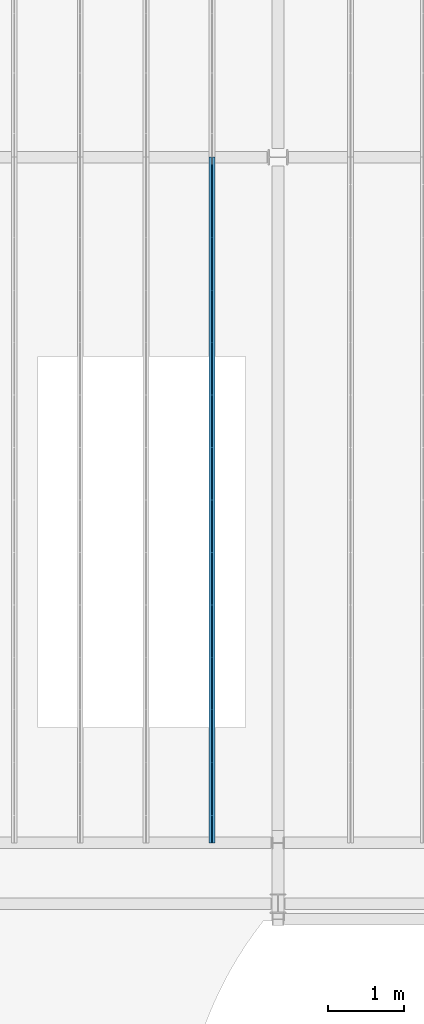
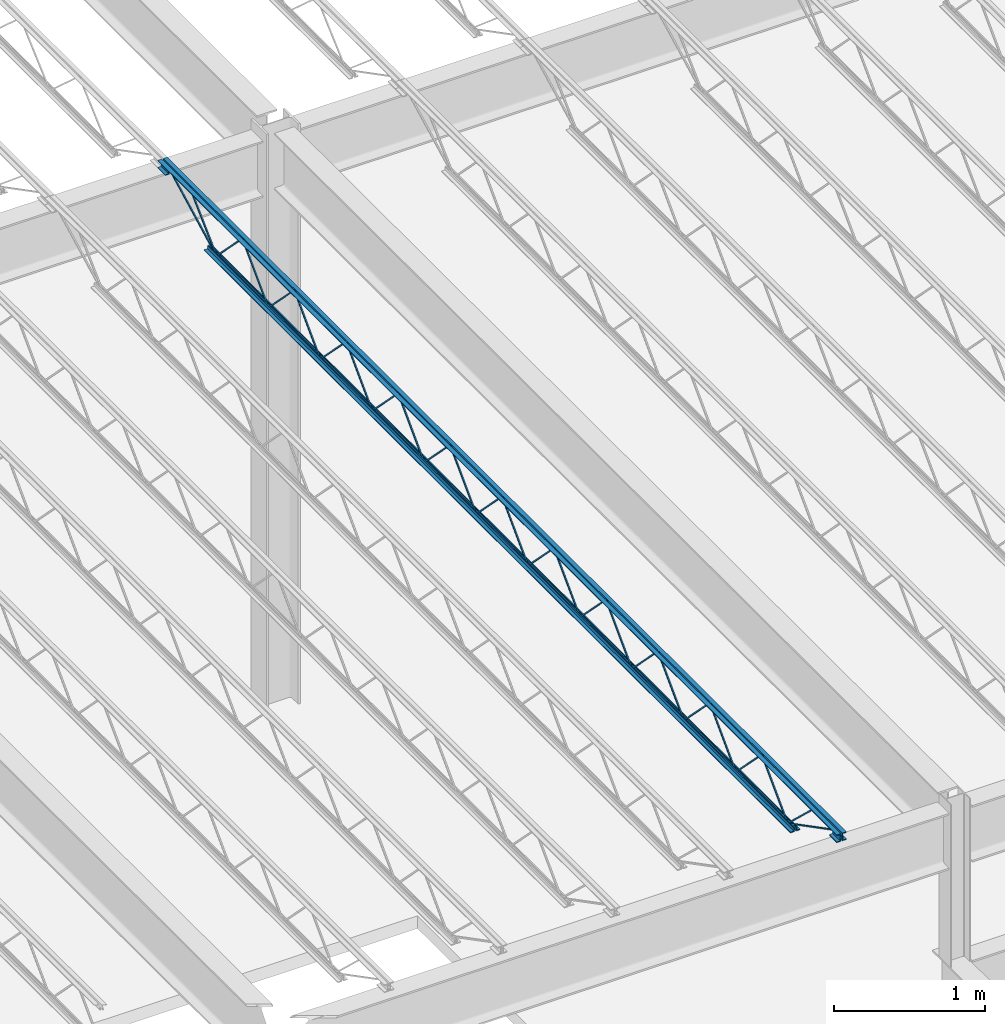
# One storey, part 56 of 119: 1 beam.
"""IFC2X3 building model written with IfcOpenShell, lengths in metres."""

from ifc_helpers import new_model, entity, si_unit, converted_unit, frame, origin, place, context, project, spatial, face_set, surface_model, element, save


model = new_model("IFC2X3")

# Units and contexts
model_context = context("Model", 3, precision=1e-09, world=origin())
plan_context = context("Plan", 3, precision=1e-09, world=origin())
ifc_project = project(units=[si_unit("LENGTHUNIT", "METRE"), si_unit("AREAUNIT", "SQUARE_METRE"), si_unit("VOLUMEUNIT", "CUBIC_METRE"), converted_unit("PLANEANGLEUNIT", "DEGREE", entity("IfcRatioMeasure", 0.01745329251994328), si_unit("PLANEANGLEUNIT", "RADIAN"), dimensions=[0, 0, 0, 0, 0, 0, 0]), si_unit("TIMEUNIT", "SECOND")], contexts=[model_context, plan_context])

# Site, building, storey
site_placement = place(None, origin())
site = spatial("IfcSite", under=ifc_project, at=site_placement, Name="Default", CompositionType="ELEMENT")
building_placement = place(site_placement, origin())
building = spatial("IfcBuilding", under=site, at=building_placement, CompositionType="ELEMENT")
storey_placement = place(building_placement, frame((0.0, 0.0, 4.570000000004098)))
storey = spatial("IfcBuildingStorey", under=building, at=storey_placement, Name="Second Floor", CompositionType="ELEMENT", Elevation=4.570000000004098)

# Beam
beam_placement = place(storey_placement, frame((-15.78006249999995, 35.80499999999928, 4.323999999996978)))
element("IfcBeam", 1, at=beam_placement, inside=storey, Name="M_K-Series Bar Joist-Rod Web:14K1:14K1", ObjectType="M_K-Series Bar Joist-Rod Web:14K1", context=model_context, shape_type="SurfaceModel", body=[
    surface_model("IfcFaceBasedSurfaceModel", [(0.04150000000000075, 6.89009090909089, 0.01110000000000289), (0.03200000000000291, 6.89009090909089, 0.01110000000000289), (0.03200000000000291, 6.89009090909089, 0.001600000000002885), (0.04150000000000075, 6.89009090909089, 0.001600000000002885), (0.03200000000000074, 6.891272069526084, 0.01110000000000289), (0.04150000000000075, 6.891272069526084, 0.01110000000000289), (0.03200000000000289, 6.895259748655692, 0.001600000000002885), (0.03200000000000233, 7.232137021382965, 0.3449000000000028), (0.03200000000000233, 7.23449934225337, 0.3449000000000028), (0.03200000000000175, 7.571376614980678, 0.001600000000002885), (0.03200000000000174, 7.576545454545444, 0.001600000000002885), (0.03200000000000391, 7.576545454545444, 0.01110000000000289), (0.03200000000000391, 7.575364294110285, 0.01110000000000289), (0.03200000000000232, 7.238487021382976, 0.3544000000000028), (0.03200000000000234, 7.228149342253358, 0.3544000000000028), (0.0415000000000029, 6.895259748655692, 0.001600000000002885), (0.04150000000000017, 7.232137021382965, 0.3449000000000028), (0.04150000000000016, 7.23449934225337, 0.3449000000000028), (0.04149999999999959, 7.571376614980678, 0.001600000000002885), (0.04149999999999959, 7.576545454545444, 0.001600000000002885), (0.04149999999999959, 7.576545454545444, 0.01110000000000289), (0.04149999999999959, 7.575364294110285, 0.01110000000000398), (0.04150000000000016, 7.238487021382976, 0.3544000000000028), (0.04150000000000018, 7.228149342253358, 0.3544000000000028), (0.04149999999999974, 6.203636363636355, 0.01110000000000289), (0.0320000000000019, 6.203636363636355, 0.01110000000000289), (0.0320000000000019, 6.203636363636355, 0.001600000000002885), (0.04149999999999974, 6.203636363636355, 0.001600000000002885), (0.03199999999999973, 6.204817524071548, 0.01110000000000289), (0.04149999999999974, 6.204817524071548, 0.01110000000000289), (0.0320000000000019, 6.208805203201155, 0.001600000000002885), (0.03200000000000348, 6.545682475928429, 0.3449000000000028), (0.03200000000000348, 6.548044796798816, 0.3449000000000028), (0.03200000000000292, 6.884922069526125, 0.001600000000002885), (0.03200000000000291, 6.888909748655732, 0.01110000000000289), (0.03200000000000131, 6.552032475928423, 0.3544000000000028), (0.03200000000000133, 6.541694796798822, 0.3544000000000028), (0.0415000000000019, 6.208805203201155, 0.001600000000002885), (0.04149999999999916, 6.545682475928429, 0.3449000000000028), (0.04149999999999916, 6.548044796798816, 0.3449000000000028), (0.04149999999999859, 6.884922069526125, 0.001600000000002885), (0.04149999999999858, 6.89009090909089, 0.001600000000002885), (0.04150000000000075, 6.888909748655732, 0.01110000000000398), (0.04150000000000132, 6.552032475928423, 0.3544000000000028), (0.04150000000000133, 6.541694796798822, 0.3544000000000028), (0.0415000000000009, 5.517181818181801, 0.01110000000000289), (0.03200000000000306, 5.517181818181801, 0.01110000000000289), (0.03200000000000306, 5.517181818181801, 0.001600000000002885), (0.0415000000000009, 5.517181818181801, 0.001600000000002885), (0.03200000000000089, 5.518362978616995, 0.01110000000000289), (0.0415000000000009, 5.518362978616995, 0.01110000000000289), (0.03200000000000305, 5.522350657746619, 0.001600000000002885), (0.03200000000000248, 5.859227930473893, 0.3449000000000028), (0.03200000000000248, 5.861590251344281, 0.3449000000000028), (0.03200000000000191, 6.198467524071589, 0.001600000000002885), (0.03200000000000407, 6.203636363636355, 0.01110000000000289), (0.03200000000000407, 6.202455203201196, 0.01110000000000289), (0.03200000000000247, 5.865577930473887, 0.3544000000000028), (0.03200000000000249, 5.855240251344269, 0.3544000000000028), (0.04150000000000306, 5.522350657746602, 0.001600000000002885), (0.04150000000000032, 5.859227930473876, 0.3449000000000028), (0.04150000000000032, 5.861590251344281, 0.3449000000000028), (0.04149999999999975, 6.198467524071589, 0.001600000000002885), (0.04149999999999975, 6.202455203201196, 0.01110000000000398), (0.04150000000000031, 5.865577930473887, 0.3544000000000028), (0.04150000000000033, 5.855240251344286, 0.3544000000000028), (0.04149999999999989, 4.830727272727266, 0.01110000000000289), (0.03200000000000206, 4.830727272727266, 0.01110000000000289), (0.03200000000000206, 4.830727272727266, 0.001600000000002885), (0.04149999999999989, 4.830727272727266, 0.001600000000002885), (0.03199999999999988, 4.831908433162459, 0.01110000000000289), (0.04149999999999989, 4.831908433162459, 0.01110000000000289), (0.03200000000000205, 4.835896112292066, 0.001600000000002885), (0.03200000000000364, 5.17277338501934, 0.3449000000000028), (0.03200000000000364, 5.175135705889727, 0.3449000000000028), (0.03200000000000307, 5.512012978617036, 0.001600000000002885), (0.03200000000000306, 5.517181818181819, 0.001600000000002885), (0.03200000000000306, 5.517181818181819, 0.01110000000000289), (0.03200000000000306, 5.51600065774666, 0.01110000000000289), (0.03200000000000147, 5.179123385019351, 0.3544000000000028), (0.03200000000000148, 5.168785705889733, 0.3544000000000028), (0.04150000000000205, 4.835896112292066, 0.001600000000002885), (0.04149999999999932, 5.17277338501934, 0.3449000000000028), (0.04149999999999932, 5.175135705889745, 0.3449000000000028), (0.04149999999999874, 5.512012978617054, 0.001600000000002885), (0.04149999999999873, 5.517181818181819, 0.001600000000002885), (0.0415000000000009, 5.517181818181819, 0.01110000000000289), (0.0415000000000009, 5.51600065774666, 0.01110000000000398), (0.04150000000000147, 5.179123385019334, 0.3544000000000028), (0.04150000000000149, 5.168785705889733, 0.3544000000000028), (0.04150000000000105, 4.14427272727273, 0.01110000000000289), (0.03200000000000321, 4.14427272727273, 0.01110000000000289), (0.03200000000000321, 4.14427272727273, 0.001600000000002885), (0.04150000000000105, 4.14427272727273, 0.001600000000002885), (0.03200000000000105, 4.145453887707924, 0.01110000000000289), (0.04150000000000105, 4.145453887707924, 0.01110000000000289), (0.03200000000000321, 4.14944156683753, 0.001600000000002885), (0.03200000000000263, 4.486318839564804, 0.3449000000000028), (0.03200000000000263, 4.488681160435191, 0.3449000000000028), (0.03200000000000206, 4.8255584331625, 0.001600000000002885), (0.03200000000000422, 4.830727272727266, 0.01110000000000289), (0.03200000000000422, 4.829546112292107, 0.01110000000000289), (0.03200000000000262, 4.492668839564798, 0.3544000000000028), (0.03200000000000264, 4.482331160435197, 0.3544000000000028), (0.04150000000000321, 4.14944156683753, 0.001600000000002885), (0.04150000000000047, 4.486318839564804, 0.3449000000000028), (0.04150000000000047, 4.488681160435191, 0.3449000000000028), (0.0414999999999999, 4.8255584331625, 0.001600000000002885), (0.0414999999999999, 4.829546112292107, 0.01110000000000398), (0.04150000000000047, 4.492668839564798, 0.3544000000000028), (0.04150000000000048, 4.482331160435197, 0.3544000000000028), (0.04150000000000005, 3.457818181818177, 0.01110000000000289), (0.03200000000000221, 3.457818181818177, 0.01110000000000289), (0.03200000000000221, 3.457818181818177, 0.001600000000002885), (0.04150000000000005, 3.457818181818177, 0.001600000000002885), (0.03200000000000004, 3.458999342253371, 0.01110000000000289), (0.04150000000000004, 3.458999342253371, 0.01110000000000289), (0.03200000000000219, 3.462987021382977, 0.001600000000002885), (0.03200000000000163, 3.799864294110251, 0.3449000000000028), (0.03200000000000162, 3.802226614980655, 0.3449000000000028), (0.03200000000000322, 4.139103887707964, 0.001600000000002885), (0.03200000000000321, 4.143091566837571, 0.01110000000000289), (0.03200000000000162, 3.806214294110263, 0.3544000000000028), (0.03200000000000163, 3.795876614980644, 0.3544000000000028), (0.04150000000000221, 3.462987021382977, 0.001600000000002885), (0.04149999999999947, 3.799864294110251, 0.3449000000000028), (0.04149999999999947, 3.802226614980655, 0.3449000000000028), (0.0414999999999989, 4.139103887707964, 0.001600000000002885), (0.04149999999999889, 4.14427272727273, 0.001600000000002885), (0.04150000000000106, 4.143091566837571, 0.01110000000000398), (0.04149999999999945, 3.806214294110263, 0.3544000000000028), (0.04149999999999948, 3.795876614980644, 0.3544000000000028), (0.04150000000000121, 2.771363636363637, 0.01110000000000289), (0.03200000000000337, 2.771363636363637, 0.01110000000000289), (0.03200000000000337, 2.771363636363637, 0.001600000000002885), (0.04150000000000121, 2.771363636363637, 0.001600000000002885), (0.0320000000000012, 2.772544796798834, 0.01110000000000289), (0.0415000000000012, 2.772544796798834, 0.01110000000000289), (0.03200000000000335, 2.776532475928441, 0.001600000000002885), (0.03200000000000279, 3.113409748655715, 0.3449000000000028), (0.03200000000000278, 3.115772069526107, 0.3449000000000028), (0.03200000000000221, 3.452649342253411, 0.001600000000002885), (0.03200000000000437, 3.457818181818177, 0.01110000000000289), (0.03200000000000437, 3.456637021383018, 0.01110000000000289), (0.03200000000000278, 3.119759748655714, 0.3544000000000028), (0.03200000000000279, 3.109422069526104, 0.3544000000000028), (0.04150000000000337, 2.776532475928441, 0.001600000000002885), (0.04150000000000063, 3.113409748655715, 0.3449000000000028), (0.04150000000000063, 3.115772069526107, 0.3449000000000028), (0.04150000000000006, 3.452649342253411, 0.001600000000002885), (0.04150000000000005, 3.456637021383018, 0.01110000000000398), (0.04150000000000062, 3.119759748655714, 0.3544000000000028), (0.04150000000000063, 3.109422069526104, 0.3544000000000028), (0.0415000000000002, 2.084909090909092, 0.01110000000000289), (0.03200000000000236, 2.084909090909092, 0.01110000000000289), (0.03200000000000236, 2.084909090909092, 0.001600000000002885), (0.0415000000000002, 2.084909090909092, 0.001600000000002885), (0.0320000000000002, 2.08609025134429, 0.01110000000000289), (0.0415000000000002, 2.08609025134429, 0.01110000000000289), (0.03200000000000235, 2.090077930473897, 0.001600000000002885), (0.03200000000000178, 2.426955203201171, 0.3449000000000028), (0.03200000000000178, 2.429317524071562, 0.3449000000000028), (0.03200000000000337, 2.766194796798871, 0.001600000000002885), (0.03200000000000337, 2.770182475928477, 0.01110000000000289), (0.03200000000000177, 2.433305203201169, 0.3544000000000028), (0.03200000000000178, 2.422967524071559, 0.3544000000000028), (0.04150000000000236, 2.090077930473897, 0.001600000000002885), (0.04149999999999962, 2.426955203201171, 0.3449000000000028), (0.04149999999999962, 2.429317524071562, 0.3449000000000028), (0.04149999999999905, 2.766194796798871, 0.001600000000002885), (0.04149999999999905, 2.771363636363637, 0.001600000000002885), (0.04150000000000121, 2.770182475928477, 0.01110000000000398), (0.04149999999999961, 2.433305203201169, 0.3544000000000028), (0.04149999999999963, 2.422967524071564, 0.3544000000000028), (0.04150000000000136, 1.398454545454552, 0.01110000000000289), (0.03200000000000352, 1.398454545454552, 0.01110000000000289), (0.03200000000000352, 1.398454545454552, 0.001600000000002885), (0.04150000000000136, 1.398454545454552, 0.001600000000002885), (0.03200000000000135, 1.39963570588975, 0.01110000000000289), (0.04150000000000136, 1.39963570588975, 0.01110000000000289), (0.03200000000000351, 1.403623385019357, 0.001600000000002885), (0.03200000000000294, 1.740500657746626, 0.3449000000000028), (0.03200000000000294, 1.742862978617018, 0.3449000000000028), (0.03200000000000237, 2.07974025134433, 0.001600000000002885), (0.03200000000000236, 2.084909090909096, 0.001600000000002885), (0.03200000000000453, 2.084909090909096, 0.01110000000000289), (0.03200000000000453, 2.083727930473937, 0.01110000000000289), (0.03200000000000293, 1.746850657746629, 0.3544000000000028), (0.03200000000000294, 1.736512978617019, 0.3544000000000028), (0.04150000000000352, 1.403623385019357, 0.001600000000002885), (0.04150000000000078, 1.74050065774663, 0.3449000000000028), (0.04150000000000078, 1.742862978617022, 0.3449000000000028), (0.04150000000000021, 2.07974025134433, 0.001600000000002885), (0.0415000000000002, 2.084909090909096, 0.001600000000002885), (0.0415000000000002, 2.084909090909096, 0.01110000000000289), (0.0415000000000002, 2.083727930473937, 0.01110000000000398), (0.04150000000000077, 1.746850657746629, 0.3544000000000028), (0.04150000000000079, 1.736512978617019, 0.3544000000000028), (0.04150000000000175, 7.576545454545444, 0.01109999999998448), (0.03200000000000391, 7.576545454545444, 0.01109999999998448), (0.03200000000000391, 7.576545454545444, 0.001599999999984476), (0.04150000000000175, 7.576545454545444, 0.001599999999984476), (0.03200000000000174, 7.577726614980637, 0.01109999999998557), (0.04150000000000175, 7.577726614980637, 0.01109999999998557), (0.03200000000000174, 7.581714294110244, 0.001599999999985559), (0.03200000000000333, 7.918591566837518, 0.3448999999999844), (0.03200000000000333, 7.920953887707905, 0.3448999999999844), (0.03200000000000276, 8.257831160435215, 0.001599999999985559), (0.03200000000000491, 8.26299999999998, 0.001599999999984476), (0.03200000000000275, 8.26299999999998, 0.01109999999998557), (0.03200000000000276, 8.261818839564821, 0.01109999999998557), (0.03200000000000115, 7.924941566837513, 0.3543999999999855), (0.03200000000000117, 7.914603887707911, 0.3543999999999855), (0.04150000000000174, 7.581714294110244, 0.001599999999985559), (0.04150000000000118, 7.918591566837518, 0.3448999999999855), (0.04150000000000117, 7.920953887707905, 0.3448999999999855), (0.0415000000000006, 8.257831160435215, 0.001599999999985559), (0.04150000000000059, 8.26299999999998, 0.001599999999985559), (0.04150000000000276, 8.26299999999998, 0.01109999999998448), (0.04150000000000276, 8.261818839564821, 0.01109999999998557), (0.04150000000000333, 7.924941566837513, 0.3543999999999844), (0.04150000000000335, 7.914603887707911, 0.3543999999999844), (0.04150000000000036, 0.7120000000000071, 0.01110000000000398), (0.03200000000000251, 0.7120000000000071, 0.01110000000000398), (0.03200000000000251, 0.7120000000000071, 0.001600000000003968), (0.04150000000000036, 0.7120000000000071, 0.001600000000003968), (0.03200000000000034, 0.7131811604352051, 0.01110000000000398), (0.04150000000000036, 0.7131811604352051, 0.01110000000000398), (0.03200000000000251, 0.7171688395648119, 0.001600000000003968), (0.03200000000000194, 1.054046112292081, 0.3449000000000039), (0.03200000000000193, 1.056408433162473, 0.3449000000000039), (0.03200000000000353, 1.393285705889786, 0.001600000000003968), (0.03200000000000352, 1.398454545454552, 0.001600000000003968), (0.03200000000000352, 1.398454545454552, 0.01110000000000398), (0.03200000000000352, 1.397273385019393, 0.01110000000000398), (0.03200000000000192, 1.060396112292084, 0.3544000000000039), (0.03200000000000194, 1.050058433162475, 0.3544000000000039), (0.04150000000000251, 0.7171688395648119, 0.001600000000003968), (0.04149999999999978, 1.054046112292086, 0.3449000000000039), (0.04149999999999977, 1.056408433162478, 0.3449000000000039), (0.0414999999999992, 1.393285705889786, 0.001600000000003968), (0.0414999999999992, 1.398454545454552, 0.001600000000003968), (0.04150000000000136, 1.398454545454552, 0.01110000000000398), (0.04150000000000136, 1.397273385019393, 0.01110000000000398), (0.04149999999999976, 1.060396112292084, 0.3544000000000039), (0.04149999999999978, 1.050058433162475, 0.3544000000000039), (0.03199999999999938, 8.975000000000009, 0.3559999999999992), (0.0, 8.975000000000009, 0.3559999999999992), (0.0, 8.975000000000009, 0.3494999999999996), (0.02549999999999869, 8.975000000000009, 0.3494999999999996), (0.02549999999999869, 8.975000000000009, 0.3239999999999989), (0.03199999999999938, 8.975000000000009, 0.3239999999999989), (0.04149999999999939, 8.975000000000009, 0.3559999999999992), (0.04149999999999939, 8.975000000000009, 0.3239999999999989), (0.04800000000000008, 8.975000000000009, 0.3239999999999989), (0.04800000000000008, 8.975000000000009, 0.3494999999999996), (0.07349999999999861, 8.975000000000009, 0.3494999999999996), (0.07349999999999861, 8.975000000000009, 0.3559999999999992), (0.03200000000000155, 0.0, 0.3559999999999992), (0.0, 0.0, 0.3559999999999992), (0.0, 0.0, 0.3494999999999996), (0.02550000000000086, 0.0, 0.3494999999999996), (0.02550000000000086, 0.0, 0.3239999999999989), (0.03200000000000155, 0.0, 0.3239999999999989), (0.04150000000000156, 0.0, 0.3559999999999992), (0.04150000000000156, 0.0, 0.3239999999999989), (0.04800000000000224, 0.0, 0.3239999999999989), (0.04800000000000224, 0.0, 0.3494999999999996), (0.07350000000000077, 0.0, 0.3494999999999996), (0.07350000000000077, 0.0, 0.3559999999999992), (0.04150000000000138, 0.09999999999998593, 0.2924999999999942), (0.0735000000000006, 0.09999999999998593, 0.2924999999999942), (0.0735000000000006, 0.09999999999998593, 0.2989999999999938), (0.04800000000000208, 0.09999999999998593, 0.2989999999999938), (0.04800000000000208, 0.09999999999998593, 0.3239999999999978), (0.04150000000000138, 0.09999999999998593, 0.3239999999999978), (0.0, 0.09999999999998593, 0.2924999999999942), (0.03200000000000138, 0.09999999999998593, 0.2924999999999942), (0.03200000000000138, 0.09999999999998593, 0.3239999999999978), (0.02550000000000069, 0.09999999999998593, 0.3239999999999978), (0.02550000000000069, 0.09999999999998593, 0.2989999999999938), (0.0, 0.09999999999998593, 0.2989999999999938), (0.04150000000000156, 0.0, 0.2924999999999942), (0.07350000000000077, 0.0, 0.2924999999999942), (0.07350000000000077, 0.0, 0.2989999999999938), (0.04800000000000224, 0.0, 0.2989999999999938), (0.04800000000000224, 0.0, 0.3239999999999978), (0.04150000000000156, 0.0, 0.3239999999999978), (0.0, 0.0, 0.2924999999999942), (0.03200000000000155, 0.0, 0.2924999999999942), (0.03200000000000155, 0.0, 0.3239999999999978), (0.02550000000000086, 0.0, 0.3239999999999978), (0.02550000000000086, 0.0, 0.2989999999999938), (0.0, 0.0, 0.2989999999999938), (0.03199999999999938, 8.975000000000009, 0.2924999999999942), (0.03199999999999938, 8.975000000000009, 0.3239999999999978), (0.02550000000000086, 8.975000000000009, 0.3239999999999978), (0.02550000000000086, 8.975000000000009, 0.2989999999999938), (0.0, 8.975000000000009, 0.2989999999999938), (0.0, 8.975000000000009, 0.2924999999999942), (0.04149999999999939, 8.975000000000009, 0.2924999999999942), (0.07350000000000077, 8.975000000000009, 0.2924999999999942), (0.07350000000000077, 8.975000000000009, 0.2989999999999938), (0.04800000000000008, 8.975000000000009, 0.2989999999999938), (0.04800000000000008, 8.975000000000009, 0.3239999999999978), (0.04149999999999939, 8.975000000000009, 0.3239999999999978), (0.03199999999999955, 8.874999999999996, 0.2924999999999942), (0.03199999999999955, 8.874999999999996, 0.3239999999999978), (0.02550000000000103, 8.874999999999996, 0.3239999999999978), (0.02550000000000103, 8.874999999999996, 0.2989999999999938), (0.0, 8.874999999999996, 0.2989999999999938), (0.0, 8.874999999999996, 0.2924999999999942), (0.04149999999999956, 8.874999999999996, 0.2924999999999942), (0.07350000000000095, 8.874999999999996, 0.2924999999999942), (0.07350000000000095, 8.874999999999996, 0.2989999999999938), (0.04800000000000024, 8.874999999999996, 0.2989999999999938), (0.04800000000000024, 8.874999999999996, 0.3239999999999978), (0.04149999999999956, 8.874999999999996, 0.3239999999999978), (0.03200000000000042, 8.363000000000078, 0.0), (0.03200000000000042, 8.363000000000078, 0.03199999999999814), (0.02549999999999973, 8.363000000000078, 0.03199999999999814), (0.02549999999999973, 8.363000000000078, 0.006499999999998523), (0.0, 8.363000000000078, 0.006499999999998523), (0.0, 8.363000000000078, 0.0), (0.04150000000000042, 8.363000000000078, 0.0), (0.07349999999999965, 8.363000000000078, 0.0), (0.07349999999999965, 8.363000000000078, 0.006499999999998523), (0.04800000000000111, 8.363000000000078, 0.006499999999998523), (0.04800000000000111, 8.363000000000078, 0.03199999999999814), (0.04150000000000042, 8.363000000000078, 0.03199999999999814), (0.03200000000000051, 0.6120000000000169, 0.0), (0.03200000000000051, 0.6120000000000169, 0.03199999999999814), (0.02549999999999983, 0.6120000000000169, 0.03199999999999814), (0.02549999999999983, 0.6120000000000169, 0.006499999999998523), (0.0, 0.6120000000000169, 0.006499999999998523), (0.0, 0.6120000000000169, 0.0), (0.04150000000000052, 0.6120000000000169, 0.0), (0.07349999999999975, 0.6120000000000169, 0.0), (0.07349999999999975, 0.6120000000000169, 0.006499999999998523), (0.04800000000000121, 0.6120000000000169, 0.006499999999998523), (0.04800000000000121, 0.6120000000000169, 0.03199999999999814), (0.04150000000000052, 0.6120000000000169, 0.03199999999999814), (0.04150000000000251, 0.7141882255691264, 0.01056594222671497), (0.03200000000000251, 0.7141882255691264, 0.01056594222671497), (0.03200000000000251, 0.7098117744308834, 0.002134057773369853), (0.04150000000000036, 0.7098117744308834, 0.002134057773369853), (0.04150000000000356, 0.1011592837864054, 0.3287499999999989), (0.04150000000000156, 0.0, 0.3287499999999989), (0.04150000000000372, 0.0, 0.3192499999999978), (0.04150000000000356, 0.09884071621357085, 0.3192499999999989), (0.03200000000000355, 0.09884071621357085, 0.3192499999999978), (0.03200000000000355, 0.1011592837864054, 0.3287499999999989), (0.03200000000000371, 0.0, 0.3287499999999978), (0.03200000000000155, 0.0, 0.3192499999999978), (0.04150000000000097, 0.3488155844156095, 0.3417000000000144), (0.03200000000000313, 0.3488155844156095, 0.3417000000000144), (0.03200000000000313, 0.3488155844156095, 0.3322000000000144), (0.04150000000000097, 0.3488155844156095, 0.3322000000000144), (0.03200000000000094, 0.3634023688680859, 0.3417000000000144), (0.04150000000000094, 0.3634023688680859, 0.3417000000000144), (0.03200000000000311, 0.3596287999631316, 0.3322000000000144), (0.03200000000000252, 0.7087406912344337, 0.002894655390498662), (0.03200000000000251, 0.7152593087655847, 0.009805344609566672), (0.04150000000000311, 0.3596287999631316, 0.3322000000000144), (0.04150000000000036, 0.7087406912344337, 0.002894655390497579), (0.04150000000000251, 0.7152593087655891, 0.009805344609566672), (0.04149999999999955, 8.877188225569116, 0.3197840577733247), (0.04149999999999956, 8.872811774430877, 0.3282159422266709), (0.03200000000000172, 8.872811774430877, 0.3282159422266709), (0.03200000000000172, 8.877188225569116, 0.3197840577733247), (0.04150000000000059, 8.265188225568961, 0.002134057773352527), (0.0415000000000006, 8.260811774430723, 0.01056594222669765), (0.03200000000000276, 8.260811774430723, 0.01056594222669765), (0.03200000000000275, 8.265188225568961, 0.002134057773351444), (0.04150000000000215, 8.624030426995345, 0.346222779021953), (0.04149999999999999, 8.617452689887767, 0.3530772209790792), (0.03199999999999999, 8.617452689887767, 0.3530772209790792), (0.03200000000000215, 8.624030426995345, 0.346222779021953), (0.04150000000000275, 8.266288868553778, 0.002922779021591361), (0.0415000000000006, 8.259711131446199, 0.009777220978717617), (0.03200000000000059, 8.259711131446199, 0.009777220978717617), (0.03200000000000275, 8.266288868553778, 0.002922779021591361)], [face_set([[[0, 1, 2, 3]], [[1, 4, 5, 0]], [[2, 6, 7, 8, 9, 10, 11, 12, 13, 14, 4, 1]], [[3, 2, 6, 15]], [[0, 3, 15, 16, 17, 18, 19, 20, 21, 22, 23, 5]], [[4, 5, 23, 14]], [[15, 16, 7, 6]], [[14, 13, 22, 23]], [[16, 7, 8, 17]], [[13, 12, 21, 22]], [[17, 8, 9, 18]], [[20, 11, 10, 19]], [[12, 11, 20, 21]], [[18, 9, 10, 19]]]), face_set([[[24, 25, 26, 27]], [[25, 28, 29, 24]], [[26, 30, 31, 32, 33, 2, 1, 34, 35, 36, 28, 25]], [[27, 26, 30, 37]], [[24, 27, 37, 38, 39, 40, 41, 0, 42, 43, 44, 29]], [[28, 29, 44, 36]], [[37, 38, 31, 30]], [[36, 35, 43, 44]], [[38, 31, 32, 39]], [[35, 34, 42, 43]], [[39, 32, 33, 40]], [[0, 1, 2, 41]], [[34, 1, 0, 42]], [[40, 33, 2, 41]]]), face_set([[[45, 46, 47, 48]], [[46, 49, 50, 45]], [[47, 51, 52, 53, 54, 26, 55, 56, 57, 58, 49, 46]], [[48, 47, 51, 59]], [[45, 48, 59, 60, 61, 62, 27, 24, 63, 64, 65, 50]], [[49, 50, 65, 58]], [[59, 60, 52, 51]], [[58, 57, 64, 65]], [[60, 52, 53, 61]], [[57, 56, 63, 64]], [[61, 53, 54, 62]], [[24, 55, 26, 27]], [[56, 55, 24, 63]], [[62, 54, 26, 27]]]), face_set([[[66, 67, 68, 69]], [[67, 70, 71, 66]], [[68, 72, 73, 74, 75, 76, 77, 78, 79, 80, 70, 67]], [[69, 68, 72, 81]], [[66, 69, 81, 82, 83, 84, 85, 86, 87, 88, 89, 71]], [[70, 71, 89, 80]], [[81, 82, 73, 72]], [[80, 79, 88, 89]], [[82, 73, 74, 83]], [[79, 78, 87, 88]], [[83, 74, 75, 84]], [[86, 77, 76, 85]], [[78, 77, 86, 87]], [[84, 75, 76, 85]]]), face_set([[[90, 91, 92, 93]], [[91, 94, 95, 90]], [[92, 96, 97, 98, 99, 68, 100, 101, 102, 103, 94, 91]], [[93, 92, 96, 104]], [[90, 93, 104, 105, 106, 107, 69, 66, 108, 109, 110, 95]], [[94, 95, 110, 103]], [[104, 105, 97, 96]], [[103, 102, 109, 110]], [[105, 97, 98, 106]], [[102, 101, 108, 109]], [[106, 98, 99, 107]], [[66, 100, 68, 69]], [[101, 100, 66, 108]], [[107, 99, 68, 69]]]), face_set([[[111, 112, 113, 114]], [[112, 115, 116, 111]], [[113, 117, 118, 119, 120, 92, 91, 121, 122, 123, 115, 112]], [[114, 113, 117, 124]], [[111, 114, 124, 125, 126, 127, 128, 90, 129, 130, 131, 116]], [[115, 116, 131, 123]], [[124, 125, 118, 117]], [[123, 122, 130, 131]], [[125, 118, 119, 126]], [[122, 121, 129, 130]], [[126, 119, 120, 127]], [[90, 91, 92, 128]], [[121, 91, 90, 129]], [[127, 120, 92, 128]]]), face_set([[[132, 133, 134, 135]], [[133, 136, 137, 132]], [[134, 138, 139, 140, 141, 113, 142, 143, 144, 145, 136, 133]], [[135, 134, 138, 146]], [[132, 135, 146, 147, 148, 149, 114, 111, 150, 151, 152, 137]], [[136, 137, 152, 145]], [[146, 147, 139, 138]], [[145, 144, 151, 152]], [[147, 139, 140, 148]], [[144, 143, 150, 151]], [[148, 140, 141, 149]], [[111, 142, 113, 114]], [[143, 142, 111, 150]], [[149, 141, 113, 114]]]), face_set([[[153, 154, 155, 156]], [[154, 157, 158, 153]], [[155, 159, 160, 161, 162, 134, 133, 163, 164, 165, 157, 154]], [[156, 155, 159, 166]], [[153, 156, 166, 167, 168, 169, 170, 132, 171, 172, 173, 158]], [[157, 158, 173, 165]], [[166, 167, 160, 159]], [[165, 164, 172, 173]], [[167, 160, 161, 168]], [[164, 163, 171, 172]], [[168, 161, 162, 169]], [[132, 133, 134, 170]], [[163, 133, 132, 171]], [[169, 162, 134, 170]]]), face_set([[[174, 175, 176, 177]], [[175, 178, 179, 174]], [[176, 180, 181, 182, 183, 184, 185, 186, 187, 188, 178, 175]], [[177, 176, 180, 189]], [[174, 177, 189, 190, 191, 192, 193, 194, 195, 196, 197, 179]], [[178, 179, 197, 188]], [[189, 190, 181, 180]], [[188, 187, 196, 197]], [[190, 181, 182, 191]], [[187, 186, 195, 196]], [[191, 182, 183, 192]], [[194, 185, 184, 193]], [[186, 185, 194, 195]], [[192, 183, 184, 193]]]), face_set([[[198, 199, 200, 201]], [[199, 202, 203, 198]], [[200, 204, 205, 206, 207, 208, 209, 210, 211, 212, 202, 199]], [[201, 200, 204, 213]], [[198, 201, 213, 214, 215, 216, 217, 218, 219, 220, 221, 203]], [[202, 203, 221, 212]], [[213, 214, 205, 204]], [[212, 211, 220, 221]], [[214, 205, 206, 215]], [[211, 210, 219, 220]], [[215, 206, 207, 216]], [[218, 209, 208, 217]], [[210, 209, 218, 219]], [[216, 207, 208, 217]]]), face_set([[[222, 223, 224, 225]], [[223, 226, 227, 222]], [[224, 228, 229, 230, 231, 232, 233, 234, 235, 236, 226, 223]], [[225, 224, 228, 237]], [[222, 225, 237, 238, 239, 240, 241, 242, 243, 244, 245, 227]], [[226, 227, 245, 236]], [[237, 238, 229, 228]], [[236, 235, 244, 245]], [[238, 229, 230, 239]], [[235, 234, 243, 244]], [[239, 230, 231, 240]], [[242, 233, 232, 241]], [[234, 233, 242, 243]], [[240, 231, 232, 241]]]), face_set([[[246, 247, 248, 249, 250, 251]], [[252, 253, 254, 255, 256, 257]], [[258, 259, 260, 261, 262, 263]], [[264, 265, 266, 267, 268, 269]], [[251, 246, 258, 263]], [[250, 251, 263, 262]], [[249, 261, 262, 250]], [[248, 249, 261, 260]], [[247, 259, 260, 248]], [[246, 258, 259, 247]], [[257, 269, 264, 252]], [[256, 257, 269, 268]], [[255, 256, 268, 267]], [[254, 255, 267, 266]], [[253, 254, 266, 265]], [[252, 264, 265, 253]]]), face_set([[[270, 271, 272, 273, 274, 275]], [[276, 277, 278, 279, 280, 281]], [[282, 283, 284, 285, 286, 287]], [[288, 289, 290, 291, 292, 293]], [[275, 287, 282, 270]], [[274, 286, 287, 275]], [[273, 274, 286, 285]], [[272, 284, 285, 273]], [[271, 272, 284, 283]], [[270, 271, 283, 282]], [[281, 293, 288, 276]], [[280, 292, 293, 281]], [[279, 291, 292, 280]], [[278, 290, 291, 279]], [[277, 278, 290, 289]], [[276, 277, 289, 288]]]), face_set([[[294, 295, 296, 297, 298, 299]], [[300, 301, 302, 303, 304, 305]], [[306, 307, 308, 309, 310, 311]], [[312, 313, 314, 315, 316, 317]], [[299, 294, 306, 311]], [[298, 310, 311, 299]], [[297, 309, 310, 298]], [[296, 308, 309, 297]], [[295, 307, 308, 296]], [[294, 295, 307, 306]], [[305, 317, 312, 300]], [[304, 316, 317, 305]], [[303, 304, 316, 315]], [[302, 314, 315, 303]], [[301, 302, 314, 313]], [[300, 301, 313, 312]]]), face_set([[[318, 319, 320, 321, 322, 323]], [[324, 325, 326, 327, 328, 329]], [[330, 331, 332, 333, 334, 335]], [[336, 337, 338, 339, 340, 341]], [[323, 318, 330, 335]], [[322, 334, 335, 323]], [[321, 333, 334, 322]], [[320, 332, 333, 321]], [[319, 331, 332, 320]], [[318, 319, 331, 330]], [[329, 341, 336, 324]], [[328, 340, 341, 329]], [[327, 328, 340, 339]], [[326, 338, 339, 327]], [[325, 326, 338, 337]], [[324, 325, 337, 336]]]), face_set([[[342, 343, 344, 345]], [[345, 342, 346, 347, 348, 349]], [[344, 345, 349, 350]], [[343, 351, 352, 353, 350, 344]], [[342, 346, 351, 343]], [[347, 352, 353, 348]], [[350, 349, 348, 353]], [[346, 347, 352, 351]]]), face_set([[[354, 355, 356, 357]], [[355, 358, 359, 354]], [[356, 360, 361, 362, 358, 355]], [[357, 356, 360, 363]], [[354, 357, 363, 364, 365, 359]], [[365, 362, 361, 364]], [[358, 362, 365, 359]], [[363, 360, 361, 364]]]), face_set([[[366, 367, 368, 369]], [[370, 371, 372, 373]], [[369, 373, 370, 366]], [[368, 372, 373, 369]], [[367, 368, 372, 371]], [[366, 367, 371, 370]]]), face_set([[[374, 375, 376, 377]], [[378, 379, 380, 381]], [[377, 381, 378, 374]], [[376, 380, 381, 377]], [[375, 376, 380, 379]], [[374, 375, 379, 378]]])]),
])

save(model, "model.ifc")
